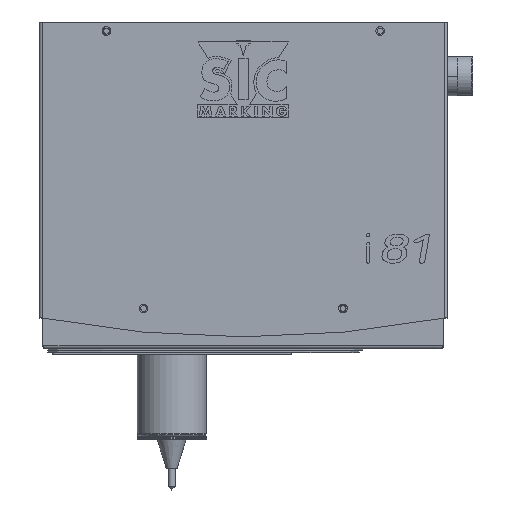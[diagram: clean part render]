
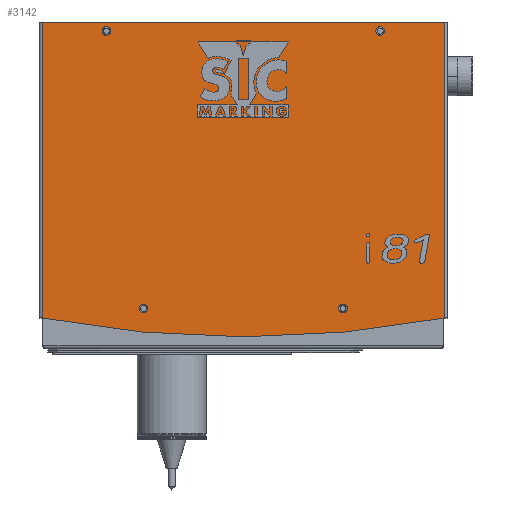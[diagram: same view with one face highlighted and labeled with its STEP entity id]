
A CAD part, top view. The second image highlights one B-rep face of the part: STEP entity #3142.
In plain terms, the highlighted planar face has unit normal (0, 0, 1).
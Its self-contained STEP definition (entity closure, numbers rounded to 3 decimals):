
#2684 = VERTEX_POINT ( 'NONE', #17700 ) ;
#2686 = EDGE_CURVE ( 'NONE', #2684, #2687, #17699, .T. ) ;
#2687 = VERTEX_POINT ( 'NONE', #17694 ) ;
#2875 = VERTEX_POINT ( 'NONE', #18293 ) ;
#2879 = VERTEX_POINT ( 'NONE', #18352 ) ;
#2881 = EDGE_CURVE ( 'NONE', #2879, #2882, #18351, .T. ) ;
#2882 = VERTEX_POINT ( 'NONE', #18346 ) ;
#2892 = VERTEX_POINT ( 'NONE', #18383 ) ;
#2893 = EDGE_CURVE ( 'NONE', #2875, #2894, #18381, .T. ) ;
#2894 = VERTEX_POINT ( 'NONE', #18382 ) ;
#3112 = ORIENTED_EDGE ( 'NONE', *, *, #3225, .F. ) ;
#3113 = EDGE_LOOP ( 'NONE', ( #3114, #3115 ) ) ;
#3114 = ORIENTED_EDGE ( 'NONE', *, *, #3159, .F. ) ;
#3115 = ORIENTED_EDGE ( 'NONE', *, *, #2686, .F. ) ;
#3116 = EDGE_LOOP ( 'NONE', ( #3117, #3118 ) ) ;
#3117 = ORIENTED_EDGE ( 'NONE', *, *, #3151, .F. ) ;
#3118 = ORIENTED_EDGE ( 'NONE', *, *, #2893, .F. ) ;
#3119 = EDGE_LOOP ( 'NONE', ( #3120, #3123, #3124, #3126, #3127, #3128 ) ) ;
#3120 = ORIENTED_EDGE ( 'NONE', *, *, #3121, .F. ) ;
#3121 = EDGE_CURVE ( 'NONE', #3575, #3122, #19063, .T. ) ;
#3122 = VERTEX_POINT ( 'NONE', #19059 ) ;
#3123 = ORIENTED_EDGE ( 'NONE', *, *, #3170, .F. ) ;
#3124 = ORIENTED_EDGE ( 'NONE', *, *, #3125, .T. ) ;
#3125 = EDGE_CURVE ( 'NONE', #3168, #3327, #19058, .T. ) ;
#3126 = ORIENTED_EDGE ( 'NONE', *, *, #3333, .T. ) ;
#3127 = ORIENTED_EDGE ( 'NONE', *, *, #4048, .F. ) ;
#3128 = ORIENTED_EDGE ( 'NONE', *, *, #3129, .F. ) ;
#3129 = EDGE_CURVE ( 'NONE', #3122, #4049, #19053, .T. ) ;
#3141 = EDGE_CURVE ( 'NONE', #3226, #2892, #19106, .T. ) ;
#3142 = ADVANCED_FACE ( 'NONE', ( #19101, #19100, #19099, #19098, #19097 ), #19030, .T. ) ;
#3143 = EDGE_LOOP ( 'NONE', ( #3144, #3146 ) ) ;
#3144 = ORIENTED_EDGE ( 'NONE', *, *, #3145, .F. ) ;
#3145 = EDGE_CURVE ( 'NONE', #2882, #2879, #19025, .T. ) ;
#3146 = ORIENTED_EDGE ( 'NONE', *, *, #2881, .F. ) ;
#3147 = EDGE_LOOP ( 'NONE', ( #3148, #3112 ) ) ;
#3148 = ORIENTED_EDGE ( 'NONE', *, *, #3141, .F. ) ;
#3151 = EDGE_CURVE ( 'NONE', #2894, #2875, #19019, .T. ) ;
#3159 = EDGE_CURVE ( 'NONE', #2687, #2684, #19131, .T. ) ;
#3168 = VERTEX_POINT ( 'NONE', #19287 ) ;
#3170 = EDGE_CURVE ( 'NONE', #3168, #3575, #19285, .T. ) ;
#3225 = EDGE_CURVE ( 'NONE', #2892, #3226, #19220, .T. ) ;
#3226 = VERTEX_POINT ( 'NONE', #19215 ) ;
#3327 = VERTEX_POINT ( 'NONE', #19648 ) ;
#3333 = EDGE_CURVE ( 'NONE', #3327, #4050, #19681, .T. ) ;
#3575 = VERTEX_POINT ( 'NONE', #20864 ) ;
#4048 = EDGE_CURVE ( 'NONE', #4049, #4050, #24956, .T. ) ;
#4049 = VERTEX_POINT ( 'NONE', #24943 ) ;
#4050 = VERTEX_POINT ( 'NONE', #24942 ) ;
#17694 = CARTESIAN_POINT ( 'NONE',  ( -32.6, -5., 191. ) ) ;
#17695 = DIRECTION ( 'NONE',  ( 1., 0., 0. ) ) ;
#17696 = DIRECTION ( 'NONE',  ( 0., 0., 1. ) ) ;
#17697 = CARTESIAN_POINT ( 'NONE',  ( -35., -5., 191. ) ) ;
#17698 = AXIS2_PLACEMENT_3D ( 'NONE', #17697, #17696, #17695 ) ;
#17699 = CIRCLE ( 'NONE', #17698, 2.4 ) ;
#17700 = CARTESIAN_POINT ( 'NONE',  ( -37.4, -5., 191. ) ) ;
#18293 = CARTESIAN_POINT ( 'NONE',  ( -188.4, -5., 191. ) ) ;
#18346 = CARTESIAN_POINT ( 'NONE',  ( -53.1, -158., 191. ) ) ;
#18347 = DIRECTION ( 'NONE',  ( 1., 0., 0. ) ) ;
#18348 = DIRECTION ( 'NONE',  ( 0., 0., 1. ) ) ;
#18349 = CARTESIAN_POINT ( 'NONE',  ( -55.5, -158., 191. ) ) ;
#18350 = AXIS2_PLACEMENT_3D ( 'NONE', #18349, #18348, #18347 ) ;
#18351 = CIRCLE ( 'NONE', #18350, 2.4 ) ;
#18352 = CARTESIAN_POINT ( 'NONE',  ( -57.9, -158., 191. ) ) ;
#18377 = DIRECTION ( 'NONE',  ( 1., 0., 0. ) ) ;
#18378 = DIRECTION ( 'NONE',  ( 0., 0., 1. ) ) ;
#18379 = CARTESIAN_POINT ( 'NONE',  ( -186., -5., 191. ) ) ;
#18380 = AXIS2_PLACEMENT_3D ( 'NONE', #18379, #18378, #18377 ) ;
#18381 = CIRCLE ( 'NONE', #18380, 2.4 ) ;
#18382 = CARTESIAN_POINT ( 'NONE',  ( -183.6, -5., 191. ) ) ;
#18383 = CARTESIAN_POINT ( 'NONE',  ( -167.9, -158., 191. ) ) ;
#19015 = DIRECTION ( 'NONE',  ( 1., 0., 0. ) ) ;
#19016 = DIRECTION ( 'NONE',  ( 0., 0., 1. ) ) ;
#19017 = CARTESIAN_POINT ( 'NONE',  ( -186., -5., 191. ) ) ;
#19018 = AXIS2_PLACEMENT_3D ( 'NONE', #19017, #19016, #19015 ) ;
#19019 = CIRCLE ( 'NONE', #19018, 2.4 ) ;
#19021 = DIRECTION ( 'NONE',  ( 1., 0., 0. ) ) ;
#19022 = DIRECTION ( 'NONE',  ( 0., 0., 1. ) ) ;
#19023 = CARTESIAN_POINT ( 'NONE',  ( -55.5, -158., 191. ) ) ;
#19024 = AXIS2_PLACEMENT_3D ( 'NONE', #19023, #19022, #19021 ) ;
#19025 = CIRCLE ( 'NONE', #19024, 2.4 ) ;
#19026 = DIRECTION ( 'NONE',  ( 1., 0., 0. ) ) ;
#19027 = DIRECTION ( 'NONE',  ( 0., 0., 1. ) ) ;
#19028 = CARTESIAN_POINT ( 'NONE',  ( -223., -200., 191. ) ) ;
#19029 = AXIS2_PLACEMENT_3D ( 'NONE', #19028, #19027, #19026 ) ;
#19030 = PLANE ( 'NONE',  #19029 ) ;
#19050 = DIRECTION ( 'NONE',  ( 0., 1., 0. ) ) ;
#19051 = VECTOR ( 'NONE', #19050, 1000. ) ;
#19052 = CARTESIAN_POINT ( 'NONE',  ( -221.5, -200., 191. ) ) ;
#19053 = LINE ( 'NONE', #19052, #19051 ) ;
#19055 = DIRECTION ( 'NONE',  ( 0., 1., 0. ) ) ;
#19056 = VECTOR ( 'NONE', #19055, 1000. ) ;
#19057 = CARTESIAN_POINT ( 'NONE',  ( 0.5, -200., 191. ) ) ;
#19058 = LINE ( 'NONE', #19057, #19056 ) ;
#19059 = CARTESIAN_POINT ( 'NONE',  ( -221.5, -163., 191. ) ) ;
#19060 = DIRECTION ( 'NONE',  ( 0., 1., 0. ) ) ;
#19061 = VECTOR ( 'NONE', #19060, 1000. ) ;
#19062 = CARTESIAN_POINT ( 'NONE',  ( -221.5, -200., 191. ) ) ;
#19063 = LINE ( 'NONE', #19062, #19061 ) ;
#19097 = FACE_OUTER_BOUND ( 'NONE', #3119, .T. ) ;
#19098 = FACE_BOUND ( 'NONE', #3116, .T. ) ;
#19099 = FACE_BOUND ( 'NONE', #3113, .T. ) ;
#19100 = FACE_BOUND ( 'NONE', #3147, .T. ) ;
#19101 = FACE_BOUND ( 'NONE', #3143, .T. ) ;
#19102 = DIRECTION ( 'NONE',  ( 1., 0., 0. ) ) ;
#19103 = DIRECTION ( 'NONE',  ( 0., 0., 1. ) ) ;
#19104 = CARTESIAN_POINT ( 'NONE',  ( -165.5, -158., 191. ) ) ;
#19105 = AXIS2_PLACEMENT_3D ( 'NONE', #19104, #19103, #19102 ) ;
#19106 = CIRCLE ( 'NONE', #19105, 2.4 ) ;
#19127 = DIRECTION ( 'NONE',  ( 1., 0., 0. ) ) ;
#19128 = DIRECTION ( 'NONE',  ( 0., 0., 1. ) ) ;
#19129 = CARTESIAN_POINT ( 'NONE',  ( -35., -5., 191. ) ) ;
#19130 = AXIS2_PLACEMENT_3D ( 'NONE', #19129, #19128, #19127 ) ;
#19131 = CIRCLE ( 'NONE', #19130, 2.4 ) ;
#19215 = CARTESIAN_POINT ( 'NONE',  ( -163.1, -158., 191. ) ) ;
#19216 = DIRECTION ( 'NONE',  ( 1., 0., 0. ) ) ;
#19217 = DIRECTION ( 'NONE',  ( 0., 0., 1. ) ) ;
#19218 = CARTESIAN_POINT ( 'NONE',  ( -165.5, -158., 191. ) ) ;
#19219 = AXIS2_PLACEMENT_3D ( 'NONE', #19218, #19217, #19216 ) ;
#19220 = CIRCLE ( 'NONE', #19219, 2.4 ) ;
#19281 = DIRECTION ( 'NONE',  ( -1., 0., 0. ) ) ;
#19282 = DIRECTION ( 'NONE',  ( 0., 0., -1. ) ) ;
#19283 = CARTESIAN_POINT ( 'NONE',  ( -110.5, 426.359, 191. ) ) ;
#19284 = AXIS2_PLACEMENT_3D ( 'NONE', #19283, #19282, #19281 ) ;
#19285 = CIRCLE ( 'NONE', #19284, 600. ) ;
#19287 = CARTESIAN_POINT ( 'NONE',  ( 0.5, -163.284, 191. ) ) ;
#19648 = CARTESIAN_POINT ( 'NONE',  ( 0.5, -163., 191. ) ) ;
#19673 = DIRECTION ( 'NONE',  ( 0., 1., 0. ) ) ;
#19674 = VECTOR ( 'NONE', #19673, 1000. ) ;
#19675 = CARTESIAN_POINT ( 'NONE',  ( 0.5, -200., 191. ) ) ;
#19681 = LINE ( 'NONE', #19675, #19674 ) ;
#20864 = CARTESIAN_POINT ( 'NONE',  ( -221.5, -163.284, 191. ) ) ;
#24942 = CARTESIAN_POINT ( 'NONE',  ( 0.5, 0., 191. ) ) ;
#24943 = CARTESIAN_POINT ( 'NONE',  ( -221.5, 0., 191. ) ) ;
#24953 = DIRECTION ( 'NONE',  ( 1., 0., 0. ) ) ;
#24954 = VECTOR ( 'NONE', #24953, 1000. ) ;
#24955 = CARTESIAN_POINT ( 'NONE',  ( -223., 0., 191. ) ) ;
#24956 = LINE ( 'NONE', #24955, #24954 ) ;
